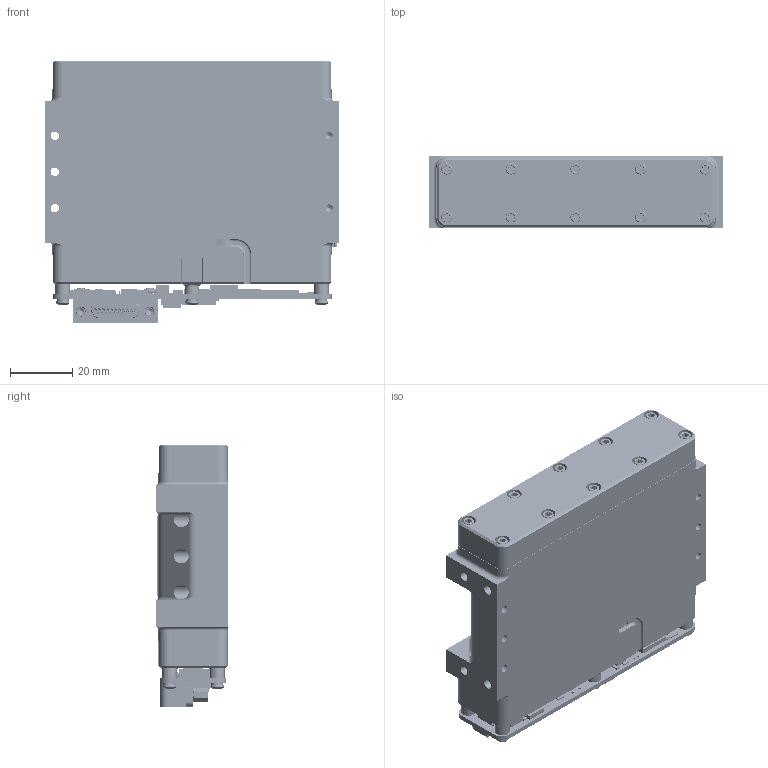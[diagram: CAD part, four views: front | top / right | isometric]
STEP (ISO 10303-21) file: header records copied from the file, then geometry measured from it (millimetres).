
FILE_DESCRIPTION (( 'STEP AP214' ), '1' );
FILE_NAME ('45Wh_MSB_Assem.STEP', '2020-11-02T18:34:54', ( '' ), ( '' ), 'SwSTEP 2.0', 'SolidWorks 2019', '' );
FILE_SCHEMA (( 'AUTOMOTIVE_DESIGN' ));
Length unit declared in the file: inch
Products named in the file (11): 91400A066_MIL SPEC PAN HEAD PHILLIPS MACHINE SCREW_91400A066; 92562A113_MIL SPEC ALLOY STEEL SOCKET HEAD CAP SCREW_92562A113; 91400A058_MIL SPEC PAN HEAD PHILLIPS MACHINE SCREW_91400A058; 90945A705_MIL SPEC. 300 SERIES SS FLAT WASHER (1)_90945A705; 45Wh_MSB_Assem; Heater; Battery Electronics - Flight v30_ArtworkImport; Chassis Assem; End_Tab; 836131117_UltiMate; 91400A054_MIL SPEC PAN HEAD PHILLIPS MACHINE SCREW_91400A054
Assembly tree (48 placements, depth 2):
  45Wh_MSB_Assem
    Chassis Assem
    Heater
    Battery Electronics - Flight v30_ArtworkImport
    836131117_UltiMate
    91400A058_MIL SPEC PAN HEAD PHILLIPS MACHINE SCREW_91400A058  x2
    End_Tab  x2
    90945A705_MIL SPEC. 300 SERIES SS FLAT WASHER (1)_90945A705  x20
    92562A113_MIL SPEC ALLOY STEEL SOCKET HEAD CAP SCREW_92562A113  x14
    91400A066_MIL SPEC PAN HEAD PHILLIPS MACHINE SCREW_91400A066  x4
    91400A054_MIL SPEC PAN HEAD PHILLIPS MACHINE SCREW_91400A054  x2
Bounding box: 94.54 x 23.11 x 84.29 mm (x, y, z)
Volume: 146745 mm3; surface area: 44799.8 mm2
Topology: 48 solids, 154 shells, 5492 faces, 14175 edges, 9140 vertices
Faces by surface type: cylinder 3223, plane 1470, cone 479, torus 163, bspline 91, sphere 66
Entity records: 113174 total; most frequent: CARTESIAN_POINT 31211, ORIENTED_EDGE 13738, DIRECTION 13194, EDGE_CURVE 6974, AXIS2_PLACEMENT_3D 4945, VERTEX_POINT 4432, LINE 3304, VECTOR 3304
